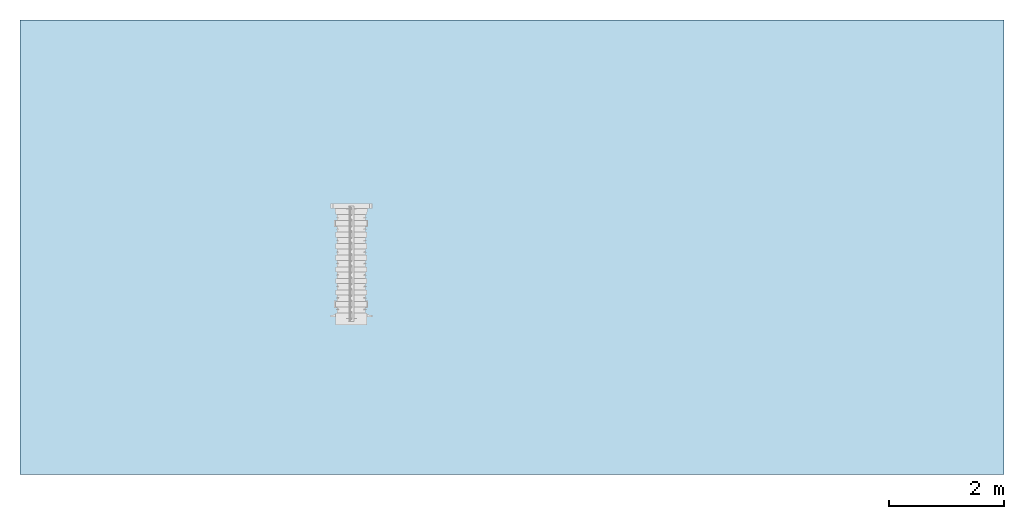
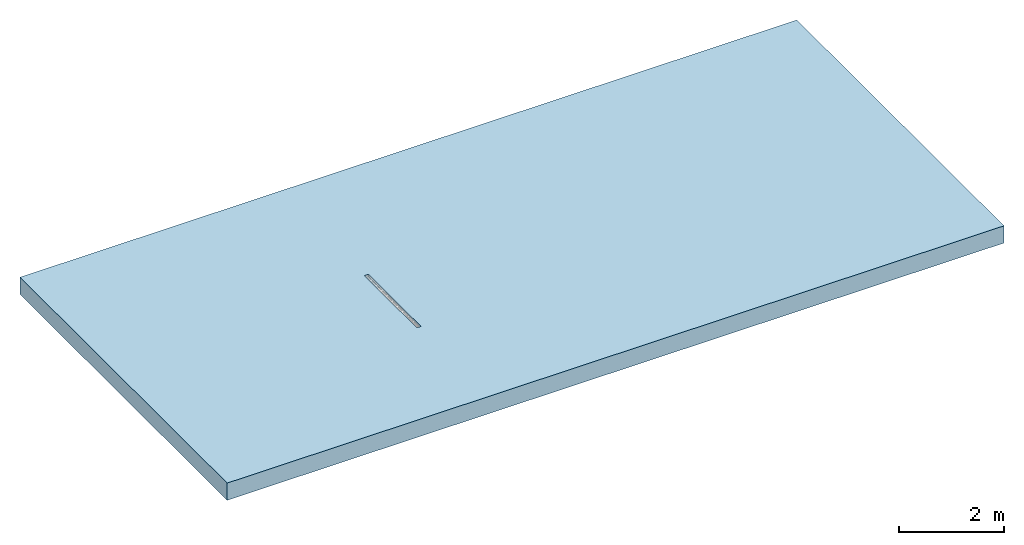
# One storey, incomplete: 1 slab, 1 opening.
"""IFC2X3 building model written with IfcOpenShell, lengths in millimetres."""

from ifc_helpers import new_model, entity, si_unit, converted_unit, direction, frame, frame_2d, origin, place, context, subcontext, project, spatial, polyline, rectangle, outline, extrude, material, layer, layer_set, layer_usage, element, save


model = new_model("IFC2X3")

# Units and contexts
model_context = context("Model", 3, precision=1e-06, world=origin(), true_north=direction((2.0, 6.12303176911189e-17, 1.0)))
context_of_model = context(None, 3, precision=1e-06, world=origin(), true_north=direction((2.0, 6.12303176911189e-17, 1.0)))
body_context = subcontext(model_context, "Body", "Model", "MODEL_VIEW")
ifc_project = project(units=[si_unit("LENGTHUNIT", "METRE", prefix="MILLI"), si_unit("AREAUNIT", "SQUARE_METRE", prefix="MILLI"), si_unit("VOLUMEUNIT", "CUBIC_METRE", prefix="MILLI"), converted_unit("PLANEANGLEUNIT", "DEGREE", entity("IfcRatioMeasure", 0.0174532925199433), si_unit("PLANEANGLEUNIT", "RADIAN"), dimensions=[0, 0, 0, 0, 0, 0, 0]), si_unit("TIMEUNIT", "SECOND")], contexts=[model_context, context_of_model])

# Site, building, storey
site_placement = place(None, origin())
site = spatial("IfcSite", under=ifc_project, at=site_placement, Name="Default", CompositionType="ELEMENT")
building_placement = place(site_placement, origin())
building = spatial("IfcBuilding", under=site, at=building_placement, CompositionType="ELEMENT")
storey_placement = place(building_placement, origin())
storey = spatial("IfcBuildingStorey", under=building, at=storey_placement, Name="Level 1", CompositionType="ELEMENT", Elevation=0.0)

# Slab, opening
ifc_material = material(Name="Plant")
ifc_layer = layer(ifc_material, 400.0)
ifc_layer_set = layer_set([ifc_layer], Name="Floor:Generic Floor - 400mm")
ifc_layer_usage = layer_usage(ifc_layer_set, "AXIS3", "POSITIVE", 0.0)
slab_placement = place(storey_placement, origin())
slab = element("IfcSlab", 1, at=slab_placement, inside=storey, material=ifc_layer_usage, Name="Floor:Generic Floor - 400mm", ObjectType="Floor:Generic Floor - 400mm", PredefinedType="FLOOR", context=body_context, shape_type="SweptSolid", body=[
    extrude(rectangle(XDim=7900.0, YDim=17100.0, at=frame_2d((0.0, 0.0), x_axis=(0.0, -1.0))), frame((-8097.86261836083, 1059.07636553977, 0.0), z_axis=(0.0, 0.0, -1.0), x_axis=(-1.0, 0.0, 0.0)), (0.0, 0.0, 1.0), 400.0),
])
opening_placement = place(slab_placement, origin())
element("IfcOpeningElement", 2, at=opening_placement, cuts=slab, ObjectType="Opening", context=body_context, shape_type="SweptSolid", body=[
    extrude(outline(polyline([(-292.500000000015, 45.0), (-292.500000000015, -45.0), (-242.499999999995, -45.0), (-242.499999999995, -405.0), (777.500000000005, -405.0), (777.500000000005, 405.0), (-242.499999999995, 405.0), (-242.499999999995, 45.0), (-292.500000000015, 45.0)])), frame((-10890.0939391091, -226.594513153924, -292.499999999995), z_axis=(0.0, -1.0, 0.0), x_axis=(0.0, 0.0, -1.0)), (0.0, 0.0, -1.0), 2000.0),
])

save(model, "model.ifc")
